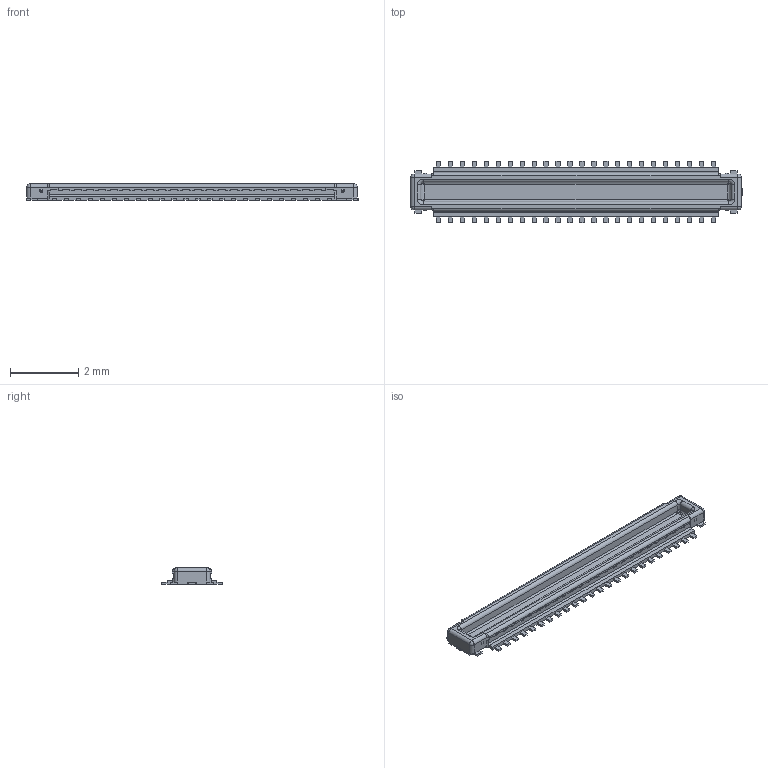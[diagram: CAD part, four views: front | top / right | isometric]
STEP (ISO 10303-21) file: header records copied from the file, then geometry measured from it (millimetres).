
FILE_DESCRIPTION(('CATIA V5 STEP Exchange'),'2;1');
FILE_NAME('H:\华灿---系列图\BtoB--板对板----(HCTL)\锦善-提供--替代BK13C-BTB\3d\NDP\HC-PBB13C-48DP-0.35V-0.6-05.stp','2026-01-05T07:32:53+00:00',('none'),('none'),'CATIA Version 5 Release 20 GA (IN-10)','CATIA V5 STEP AP203','none');
FILE_SCHEMA(('CONFIG_CONTROL_DESIGN'));
Length unit declared in the file: millimetre
Products named in the file (1): B09P_16PIN_20240426
Bounding box: 9.7 x 1.8 x 0.47 mm (x, y, z)
Volume: 3.5 mm3; surface area: 46.2 mm2
Topology: 1 solids, 1 shells, 705 faces, 2040 edges, 1338 vertices
Faces by surface type: plane 563, cylinder 106, bspline 24, torus 8, sphere 4
Entity records: 22616 total; most frequent: CARTESIAN_POINT 5469, ORIENTED_EDGE 4072, DIRECTION 2765, EDGE_CURVE 2036, VECTOR 1768, LINE 1768, VERTEX_POINT 1338, EDGE_LOOP 710
